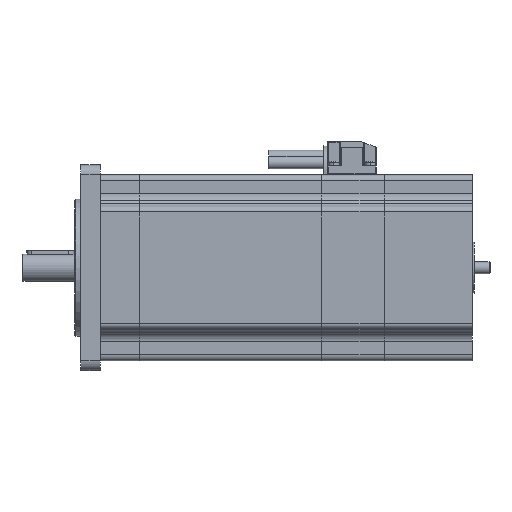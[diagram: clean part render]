
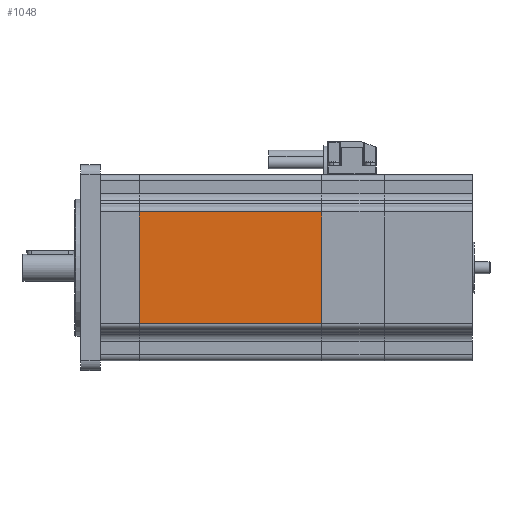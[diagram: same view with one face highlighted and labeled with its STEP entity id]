
A CAD part, left-side view. The second image highlights one B-rep face of the part: STEP entity #1048.
In plain terms, the highlighted planar face has unit normal (-1, 0, 0).
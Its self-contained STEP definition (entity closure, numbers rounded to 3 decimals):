
#35 = LINE ( 'NONE', #5052, #20799 ) ;
#545 = DIRECTION ( 'NONE',  ( 0., 1., 0. ) ) ;
#1048 = ADVANCED_FACE ( 'NONE', ( #1911 ), #19495, .T. ) ;
#1911 = FACE_OUTER_BOUND ( 'NONE', #6278, .T. ) ;
#2030 = VECTOR ( 'NONE', #545, 1000. ) ;
#4442 = EDGE_CURVE ( 'NONE', #5364, #11385, #7651, .T. ) ;
#4897 = AXIS2_PLACEMENT_3D ( 'NONE', #15995, #16569, #11310 ) ;
#5052 = CARTESIAN_POINT ( 'NONE',  ( -47.5, -93., -31.48 ) ) ;
#5185 = CARTESIAN_POINT ( 'NONE',  ( -47.5, -93., -28.48 ) ) ;
#5301 = EDGE_CURVE ( 'NONE', #22971, #11385, #14812, .T. ) ;
#5364 = VERTEX_POINT ( 'NONE', #13399 ) ;
#6278 = EDGE_LOOP ( 'NONE', ( #6708, #17271, #8754, #17372 ) ) ;
#6309 = EDGE_CURVE ( 'NONE', #16805, #5364, #35, .T. ) ;
#6708 = ORIENTED_EDGE ( 'NONE', *, *, #5301, .F. ) ;
#7651 = LINE ( 'NONE', #20360, #2030 ) ;
#8754 = ORIENTED_EDGE ( 'NONE', *, *, #6309, .T. ) ;
#9129 = DIRECTION ( 'NONE',  ( 0., -1., 0. ) ) ;
#11078 = CARTESIAN_POINT ( 'NONE',  ( -47.5, 0., -31.48 ) ) ;
#11310 = DIRECTION ( 'NONE',  ( 0., 1., 0. ) ) ;
#11385 = VERTEX_POINT ( 'NONE', #11676 ) ;
#11676 = CARTESIAN_POINT ( 'NONE',  ( -47.5, 0., 28.48 ) ) ;
#11784 = CARTESIAN_POINT ( 'NONE',  ( -47.5, -93., -28.48 ) ) ;
#13399 = CARTESIAN_POINT ( 'NONE',  ( -47.5, -93., 28.48 ) ) ;
#14812 = LINE ( 'NONE', #11078, #19279 ) ;
#15411 = EDGE_CURVE ( 'NONE', #22971, #16805, #17976, .T. ) ;
#15995 = CARTESIAN_POINT ( 'NONE',  ( -47.5, -93., -31.48 ) ) ;
#16569 = DIRECTION ( 'NONE',  ( -1., 0., 0. ) ) ;
#16805 = VERTEX_POINT ( 'NONE', #11784 ) ;
#17271 = ORIENTED_EDGE ( 'NONE', *, *, #15411, .T. ) ;
#17372 = ORIENTED_EDGE ( 'NONE', *, *, #4442, .T. ) ;
#17504 = DIRECTION ( 'NONE',  ( 0., 0., 1. ) ) ;
#17976 = LINE ( 'NONE', #5185, #18457 ) ;
#18036 = CARTESIAN_POINT ( 'NONE',  ( -47.5, 0., -28.48 ) ) ;
#18457 = VECTOR ( 'NONE', #9129, 1000. ) ;
#19279 = VECTOR ( 'NONE', #19719, 1000. ) ;
#19495 = PLANE ( 'NONE',  #4897 ) ;
#19719 = DIRECTION ( 'NONE',  ( 0., 0., 1. ) ) ;
#20360 = CARTESIAN_POINT ( 'NONE',  ( -47.5, -93., 28.48 ) ) ;
#20799 = VECTOR ( 'NONE', #17504, 1000. ) ;
#22971 = VERTEX_POINT ( 'NONE', #18036 ) ;
